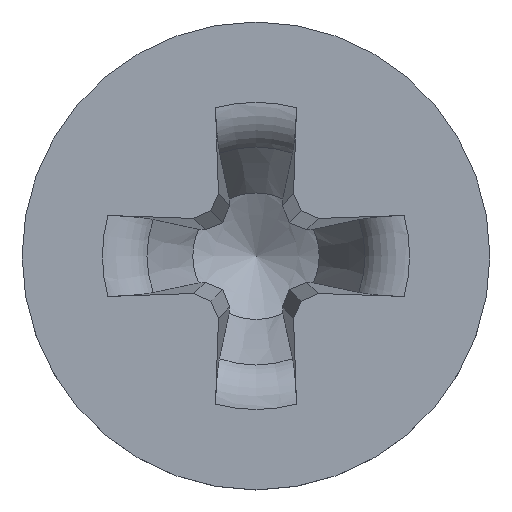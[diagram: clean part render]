
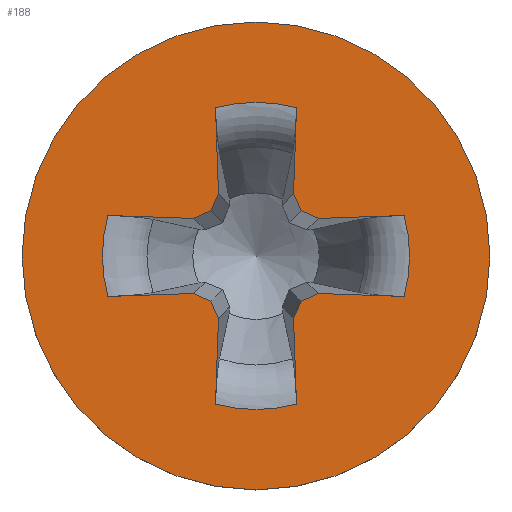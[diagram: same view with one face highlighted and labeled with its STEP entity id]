
A CAD part, top view. The second image highlights one B-rep face of the part: STEP entity #188.
In plain terms, the highlighted planar face has unit normal (0, 0, 1).
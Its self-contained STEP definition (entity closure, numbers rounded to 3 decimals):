
#53=PLANE('',#922);
#71=LINE('',#1734,#114);
#72=LINE('',#1739,#115);
#73=LINE('',#1741,#116);
#74=LINE('',#1743,#117);
#75=LINE('',#1745,#118);
#76=LINE('',#1749,#119);
#77=LINE('',#1751,#120);
#78=LINE('',#1753,#121);
#79=LINE('',#1755,#122);
#80=LINE('',#1759,#123);
#81=LINE('',#1761,#124);
#82=LINE('',#1763,#125);
#83=LINE('',#1765,#126);
#84=LINE('',#1769,#127);
#85=LINE('',#1771,#128);
#86=LINE('',#1773,#129);
#114=VECTOR('',#984,1.);
#115=VECTOR('',#987,1.);
#116=VECTOR('',#988,1.);
#117=VECTOR('',#989,1.);
#118=VECTOR('',#990,1.);
#119=VECTOR('',#993,1.);
#120=VECTOR('',#994,1.);
#121=VECTOR('',#995,1.);
#122=VECTOR('',#996,1.);
#123=VECTOR('',#999,1.);
#124=VECTOR('',#1000,1.);
#125=VECTOR('',#1001,1.);
#126=VECTOR('',#1002,1.);
#127=VECTOR('',#1005,1.);
#128=VECTOR('',#1006,1.);
#129=VECTOR('',#1007,1.);
#165=FACE_BOUND('',#291,.T.);
#166=FACE_BOUND('',#292,.T.);
#188=ADVANCED_FACE('',(#165,#166),#53,.F.);
#291=EDGE_LOOP('',(#389));
#292=EDGE_LOOP('',(#390,#391,#392,#393,#394,#395,#396,#397,#398,#399,#400,
#401,#402,#403,#404,#405,#406,#407,#408,#409));
#350=CIRCLE('',#917,2.35);
#351=CIRCLE('',#918,1.543);
#352=CIRCLE('',#919,1.543);
#353=CIRCLE('',#920,1.543);
#354=CIRCLE('',#921,1.543);
#389=ORIENTED_EDGE('',*,*,#733,.T.);
#390=ORIENTED_EDGE('',*,*,#734,.F.);
#391=ORIENTED_EDGE('',*,*,#735,.T.);
#392=ORIENTED_EDGE('',*,*,#736,.F.);
#393=ORIENTED_EDGE('',*,*,#737,.F.);
#394=ORIENTED_EDGE('',*,*,#738,.F.);
#395=ORIENTED_EDGE('',*,*,#739,.F.);
#396=ORIENTED_EDGE('',*,*,#740,.T.);
#397=ORIENTED_EDGE('',*,*,#741,.F.);
#398=ORIENTED_EDGE('',*,*,#742,.F.);
#399=ORIENTED_EDGE('',*,*,#743,.F.);
#400=ORIENTED_EDGE('',*,*,#744,.F.);
#401=ORIENTED_EDGE('',*,*,#745,.T.);
#402=ORIENTED_EDGE('',*,*,#746,.F.);
#403=ORIENTED_EDGE('',*,*,#747,.F.);
#404=ORIENTED_EDGE('',*,*,#748,.F.);
#405=ORIENTED_EDGE('',*,*,#749,.F.);
#406=ORIENTED_EDGE('',*,*,#750,.T.);
#407=ORIENTED_EDGE('',*,*,#751,.F.);
#408=ORIENTED_EDGE('',*,*,#752,.F.);
#409=ORIENTED_EDGE('',*,*,#753,.F.);
#645=VERTEX_POINT('',#1733);
#646=VERTEX_POINT('',#1735);
#647=VERTEX_POINT('',#1736);
#648=VERTEX_POINT('',#1738);
#649=VERTEX_POINT('',#1740);
#650=VERTEX_POINT('',#1742);
#651=VERTEX_POINT('',#1744);
#652=VERTEX_POINT('',#1746);
#653=VERTEX_POINT('',#1748);
#654=VERTEX_POINT('',#1750);
#655=VERTEX_POINT('',#1752);
#656=VERTEX_POINT('',#1754);
#657=VERTEX_POINT('',#1756);
#658=VERTEX_POINT('',#1758);
#659=VERTEX_POINT('',#1760);
#660=VERTEX_POINT('',#1762);
#661=VERTEX_POINT('',#1764);
#662=VERTEX_POINT('',#1766);
#663=VERTEX_POINT('',#1768);
#664=VERTEX_POINT('',#1770);
#665=VERTEX_POINT('',#1772);
#733=EDGE_CURVE('',#645,#645,#350,.T.);
#734=EDGE_CURVE('',#646,#647,#71,.T.);
#735=EDGE_CURVE('',#646,#648,#351,.T.);
#736=EDGE_CURVE('',#649,#648,#72,.T.);
#737=EDGE_CURVE('',#650,#649,#73,.T.);
#738=EDGE_CURVE('',#651,#650,#74,.T.);
#739=EDGE_CURVE('',#652,#651,#75,.T.);
#740=EDGE_CURVE('',#652,#653,#352,.T.);
#741=EDGE_CURVE('',#654,#653,#76,.T.);
#742=EDGE_CURVE('',#655,#654,#77,.T.);
#743=EDGE_CURVE('',#656,#655,#78,.T.);
#744=EDGE_CURVE('',#657,#656,#79,.T.);
#745=EDGE_CURVE('',#657,#658,#353,.T.);
#746=EDGE_CURVE('',#659,#658,#80,.T.);
#747=EDGE_CURVE('',#660,#659,#81,.T.);
#748=EDGE_CURVE('',#661,#660,#82,.T.);
#749=EDGE_CURVE('',#662,#661,#83,.T.);
#750=EDGE_CURVE('',#662,#663,#354,.T.);
#751=EDGE_CURVE('',#664,#663,#84,.T.);
#752=EDGE_CURVE('',#665,#664,#85,.T.);
#753=EDGE_CURVE('',#647,#665,#86,.T.);
#917=AXIS2_PLACEMENT_3D('',#1732,#982,#983);
#918=AXIS2_PLACEMENT_3D('',#1737,#985,#986);
#919=AXIS2_PLACEMENT_3D('',#1747,#991,#992);
#920=AXIS2_PLACEMENT_3D('',#1757,#997,#998);
#921=AXIS2_PLACEMENT_3D('',#1767,#1003,#1004);
#922=AXIS2_PLACEMENT_3D('',#1774,#1008,#1009);
#982=DIRECTION('',(0.,0.,1.));
#983=DIRECTION('',(1.,0.,0.));
#984=DIRECTION('',(-0.999,-0.035,0.));
#985=DIRECTION('',(0.,0.,-1.));
#986=DIRECTION('',(-1.,0.,0.));
#987=DIRECTION('',(0.999,-0.035,0.));
#988=DIRECTION('',(0.914,0.407,0.));
#989=DIRECTION('',(0.407,0.914,0.));
#990=DIRECTION('',(-0.035,0.999,0.));
#991=DIRECTION('',(0.,0.,-1.));
#992=DIRECTION('',(-1.,0.,0.));
#993=DIRECTION('',(-0.035,-0.999,0.));
#994=DIRECTION('',(0.407,-0.914,0.));
#995=DIRECTION('',(0.914,-0.407,0.));
#996=DIRECTION('',(0.999,0.035,0.));
#997=DIRECTION('',(0.,0.,-1.));
#998=DIRECTION('',(-1.,0.,0.));
#999=DIRECTION('',(-0.999,0.035,0.));
#1000=DIRECTION('',(-0.914,-0.407,0.));
#1001=DIRECTION('',(-0.407,-0.914,0.));
#1002=DIRECTION('',(0.035,-0.999,0.));
#1003=DIRECTION('',(0.,0.,-1.));
#1004=DIRECTION('',(-1.,0.,0.));
#1005=DIRECTION('',(0.035,0.999,0.));
#1006=DIRECTION('',(-0.407,0.914,0.));
#1007=DIRECTION('',(-0.914,0.407,0.));
#1008=DIRECTION('',(0.,0.,-1.));
#1009=DIRECTION('',(-1.,0.,0.));
#1732=CARTESIAN_POINT('',(0.,0.,2.));
#1733=CARTESIAN_POINT('',(2.35,0.,2.));
#1734=CARTESIAN_POINT('',(0.07,0.357,2.));
#1735=CARTESIAN_POINT('',(1.488,0.407,2.));
#1736=CARTESIAN_POINT('',(0.629,0.377,2.));
#1737=CARTESIAN_POINT('',(0.,0.,2.));
#1738=CARTESIAN_POINT('',(1.488,-0.407,2.));
#1739=CARTESIAN_POINT('',(-0.094,-0.352,2.));
#1740=CARTESIAN_POINT('',(0.629,-0.377,2.));
#1741=CARTESIAN_POINT('',(1.117,-0.159,2.));
#1742=CARTESIAN_POINT('',(0.455,-0.455,2.));
#1743=CARTESIAN_POINT('',(1.421,1.717,2.));
#1744=CARTESIAN_POINT('',(0.377,-0.629,2.));
#1745=CARTESIAN_POINT('',(0.273,2.36,2.));
#1746=CARTESIAN_POINT('',(0.407,-1.488,2.));
#1747=CARTESIAN_POINT('',(0.,0.,2.));
#1748=CARTESIAN_POINT('',(-0.407,-1.488,2.));
#1749=CARTESIAN_POINT('',(-0.273,2.36,2.));
#1750=CARTESIAN_POINT('',(-0.377,-0.629,2.));
#1751=CARTESIAN_POINT('',(-1.421,1.717,2.));
#1752=CARTESIAN_POINT('',(-0.455,-0.455,2.));
#1753=CARTESIAN_POINT('',(-1.117,-0.159,2.));
#1754=CARTESIAN_POINT('',(-0.629,-0.377,2.));
#1755=CARTESIAN_POINT('',(0.094,-0.352,2.));
#1756=CARTESIAN_POINT('',(-1.488,-0.407,2.));
#1757=CARTESIAN_POINT('',(0.,0.,2.));
#1758=CARTESIAN_POINT('',(-1.488,0.407,2.));
#1759=CARTESIAN_POINT('',(-0.07,0.357,2.));
#1760=CARTESIAN_POINT('',(-0.629,0.377,2.));
#1761=CARTESIAN_POINT('',(0.629,0.937,2.));
#1762=CARTESIAN_POINT('',(-0.455,0.455,2.));
#1763=CARTESIAN_POINT('',(0.325,2.205,2.));
#1764=CARTESIAN_POINT('',(-0.377,0.629,2.));
#1765=CARTESIAN_POINT('',(-0.437,2.335,2.));
#1766=CARTESIAN_POINT('',(-0.407,1.488,2.));
#1767=CARTESIAN_POINT('',(0.,0.,2.));
#1768=CARTESIAN_POINT('',(0.407,1.488,2.));
#1769=CARTESIAN_POINT('',(0.437,2.335,2.));
#1770=CARTESIAN_POINT('',(0.377,0.629,2.));
#1771=CARTESIAN_POINT('',(-0.325,2.205,2.));
#1772=CARTESIAN_POINT('',(0.455,0.455,2.));
#1773=CARTESIAN_POINT('',(-0.629,0.937,2.));
#1774=CARTESIAN_POINT('',(0.,2.35,2.));
